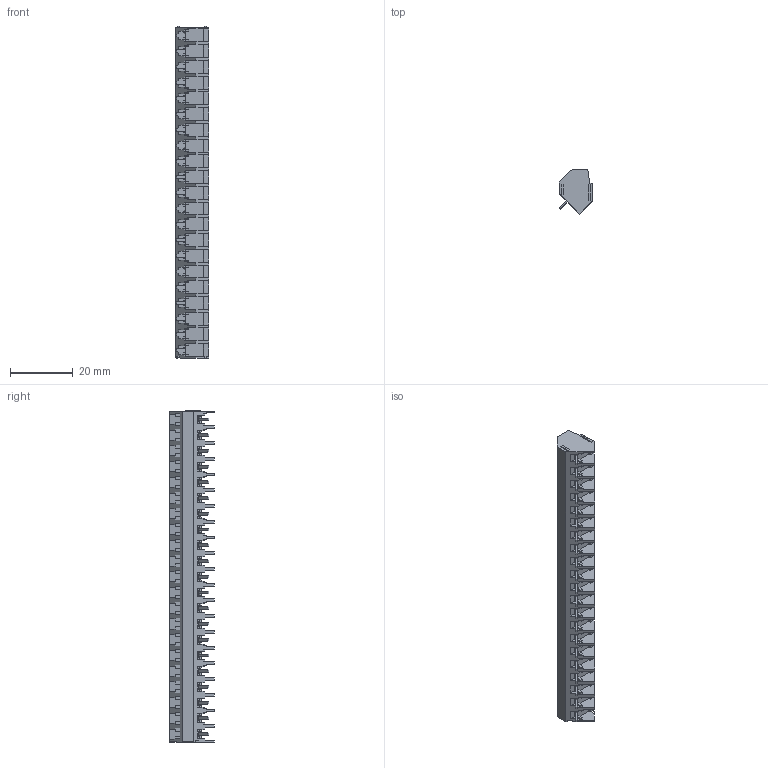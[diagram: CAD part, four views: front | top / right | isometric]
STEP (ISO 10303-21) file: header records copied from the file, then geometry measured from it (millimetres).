
FILE_DESCRIPTION (( 'STEP AP214' ), '1' );
FILE_NAME ('140-C-111-21.STEP', '2007-11-13T06:02:24', ( ' ' ), ( '' ), 'SwSTEP 2.0', 'SolidWorks 2007', '' );
FILE_SCHEMA (( 'AUTOMOTIVE_DESIGN' ));
Products named in the file (1): 140-C-111-21
Bounding box: 10.5 x 14.2 x 105.5 mm (x, y, z)
Volume: 7523.8 mm3; surface area: 8726.2 mm2
Topology: 1 solids, 1 shells, 2528 faces, 7314 edges, 4748 vertices
Faces by surface type: plane 2054, cylinder 306, bspline 105, cone 63
Entity records: 85602 total; most frequent: CARTESIAN_POINT 19820, ORIENTED_EDGE 14628, DIRECTION 12520, EDGE_CURVE 7314, VECTOR 6116, LINE 6116, VERTEX_POINT 4748, AXIS2_PLACEMENT_3D 3202
